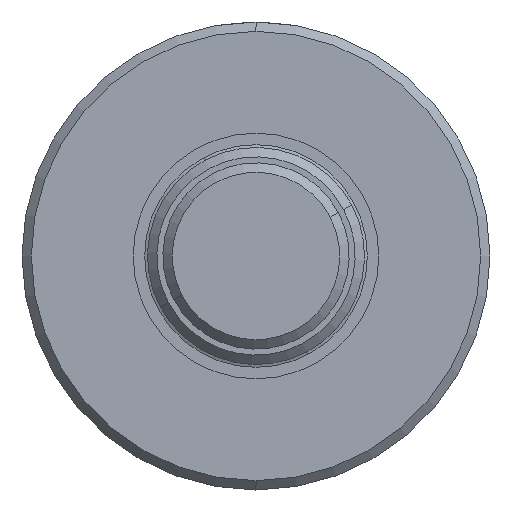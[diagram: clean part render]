
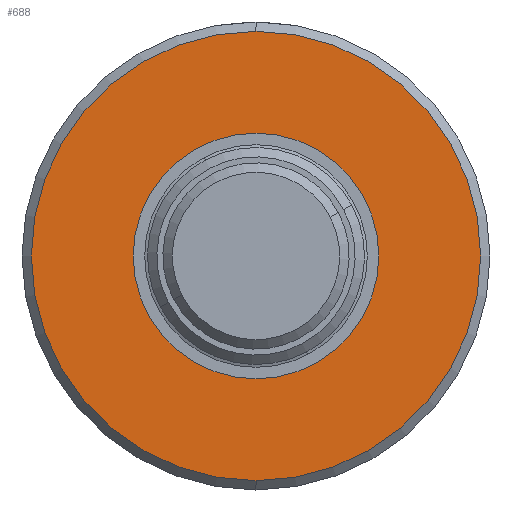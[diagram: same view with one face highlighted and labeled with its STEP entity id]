
A CAD part, front view. The second image highlights one B-rep face of the part: STEP entity #688.
In plain terms, the highlighted planar face has unit normal (0, -1, 0).
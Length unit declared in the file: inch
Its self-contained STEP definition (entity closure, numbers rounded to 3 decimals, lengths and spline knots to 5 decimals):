
#115 = CARTESIAN_POINT ( 'NONE',  ( -1.07194, -0.50522, 0.29948 ) ) ;
#157 = EDGE_LOOP ( 'NONE', ( #623, #559 ) ) ;
#204 = CARTESIAN_POINT ( 'NONE',  ( -1.07194, -0.50522, 0.29948 ) ) ;
#213 = CIRCLE ( 'NONE', #413, 0.82 ) ;
#229 = EDGE_CURVE ( 'NONE', #2136, #417, #2089, .T. ) ;
#337 = DIRECTION ( 'NONE',  ( 0., 0., 1. ) ) ;
#348 = DIRECTION ( 'NONE',  ( 0., 0., 1. ) ) ;
#413 = AXIS2_PLACEMENT_3D ( 'NONE', #115, #1591, #337 ) ;
#417 = VERTEX_POINT ( 'NONE', #852 ) ;
#559 = ORIENTED_EDGE ( 'NONE', *, *, #229, .T. ) ;
#623 = ORIENTED_EDGE ( 'NONE', *, *, #2153, .T. ) ;
#688 = ADVANCED_FACE ( 'NONE', ( #711, #1279 ), #792, .F. ) ;
#711 = FACE_OUTER_BOUND ( 'NONE', #157, .T. ) ;
#717 = CIRCLE ( 'NONE', #848, 1.5 ) ;
#792 = PLANE ( 'NONE',  #1372 ) ;
#848 = AXIS2_PLACEMENT_3D ( 'NONE', #1195, #2656, #1396 ) ;
#852 = CARTESIAN_POINT ( 'NONE',  ( -1.07194, -0.50522, 1.79948 ) ) ;
#924 = VERTEX_POINT ( 'NONE', #1154 ) ;
#1154 = CARTESIAN_POINT ( 'NONE',  ( -1.07194, -0.50522, 1.11948 ) ) ;
#1195 = CARTESIAN_POINT ( 'NONE',  ( -1.07194, -0.50522, 0.29948 ) ) ;
#1216 = DIRECTION ( 'NONE',  ( 0., 1., 0. ) ) ;
#1279 = FACE_BOUND ( 'NONE', #2496, .T. ) ;
#1368 = CARTESIAN_POINT ( 'NONE',  ( -1.07194, -0.50522, -1.20052 ) ) ;
#1372 = AXIS2_PLACEMENT_3D ( 'NONE', #2034, #1216, #2680 ) ;
#1396 = DIRECTION ( 'NONE',  ( 0., 0., 1. ) ) ;
#1591 = DIRECTION ( 'NONE',  ( 0., 1., 0. ) ) ;
#1602 = DIRECTION ( 'NONE',  ( 0., 1., 0. ) ) ;
#1738 = ORIENTED_EDGE ( 'NONE', *, *, #2254, .T. ) ;
#1772 = CARTESIAN_POINT ( 'NONE',  ( -1.07194, -0.50522, 0.29948 ) ) ;
#1852 = CARTESIAN_POINT ( 'NONE',  ( -1.07194, -0.50522, -0.52052 ) ) ;
#1886 = ORIENTED_EDGE ( 'NONE', *, *, #2143, .T. ) ;
#1956 = AXIS2_PLACEMENT_3D ( 'NONE', #204, #1602, #348 ) ;
#1967 = DIRECTION ( 'NONE',  ( 0., 0., 1. ) ) ;
#2034 = CARTESIAN_POINT ( 'NONE',  ( -1.07194, -0.50522, 0.29948 ) ) ;
#2089 = CIRCLE ( 'NONE', #2400, 1.5 ) ;
#2136 = VERTEX_POINT ( 'NONE', #1368 ) ;
#2143 = EDGE_CURVE ( 'NONE', #924, #2364, #213, .T. ) ;
#2153 = EDGE_CURVE ( 'NONE', #417, #2136, #717, .T. ) ;
#2178 = CIRCLE ( 'NONE', #1956, 0.82 ) ;
#2254 = EDGE_CURVE ( 'NONE', #2364, #924, #2178, .T. ) ;
#2364 = VERTEX_POINT ( 'NONE', #1852 ) ;
#2400 = AXIS2_PLACEMENT_3D ( 'NONE', #1772, #2607, #1967 ) ;
#2496 = EDGE_LOOP ( 'NONE', ( #1886, #1738 ) ) ;
#2607 = DIRECTION ( 'NONE',  ( 0., -1., 0. ) ) ;
#2656 = DIRECTION ( 'NONE',  ( 0., -1., 0. ) ) ;
#2680 = DIRECTION ( 'NONE',  ( 0., 0., 1. ) ) ;
